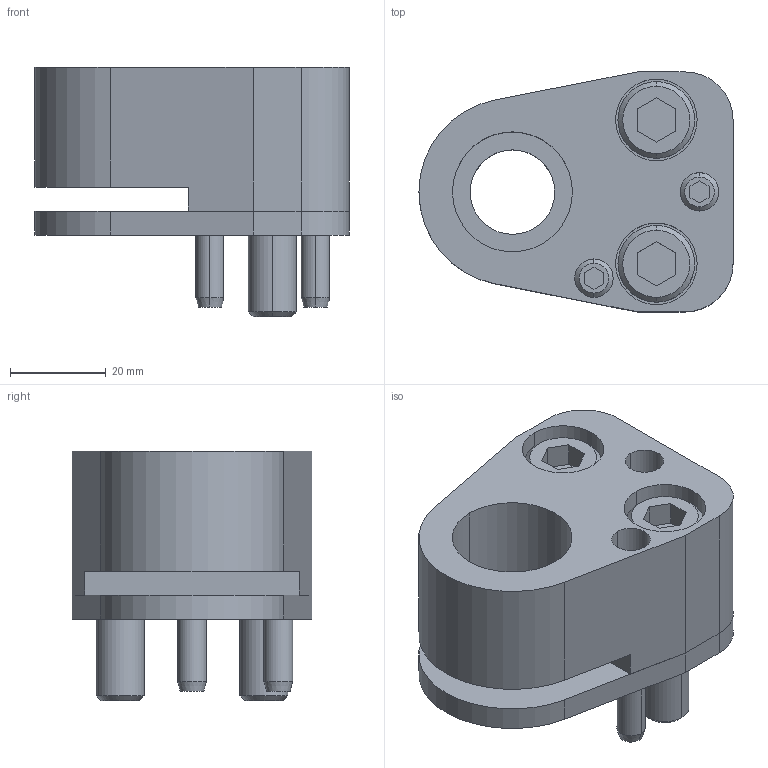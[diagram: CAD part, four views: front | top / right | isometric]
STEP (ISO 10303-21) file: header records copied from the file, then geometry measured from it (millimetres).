
FILE_DESCRIPTION(/* description */ (''),/* implementation_level */ '2;1');
FILE_NAME(/* name */ '3d_dp-fd25_02838_r00.stp',/* time_stamp */ '2011-01-10T14:15:56+09:00',/* author */ ('MISUMI'),/* organization */ (''),/* preprocessor_version */ 'ST-DEVELOPER v11',/* originating_system */ 'UGS - NX 5.0',/* authorisation */ '');
FILE_SCHEMA (('CONFIG_CONTROL_DESIGN'));
Length unit declared in the file: millimetre
Products named in the file (1): 3d_dp-fd25_02838_r00
Bounding box: 65.5 x 50 x 52 mm (x, y, z)
Volume: 75151.3 mm3; surface area: 28249.8 mm2
Topology: 8 solids, 8 shells, 154 faces, 350 edges, 225 vertices
Faces by surface type: plane 68, cylinder 60, cone 26
Entity records: 4500 total; most frequent: DIRECTION 802, CARTESIAN_POINT 787, ORIENTED_EDGE 700, EDGE_CURVE 350, AXIS2_PLACEMENT_3D 302, VERTEX_POINT 225, LINE 198, VECTOR 198
